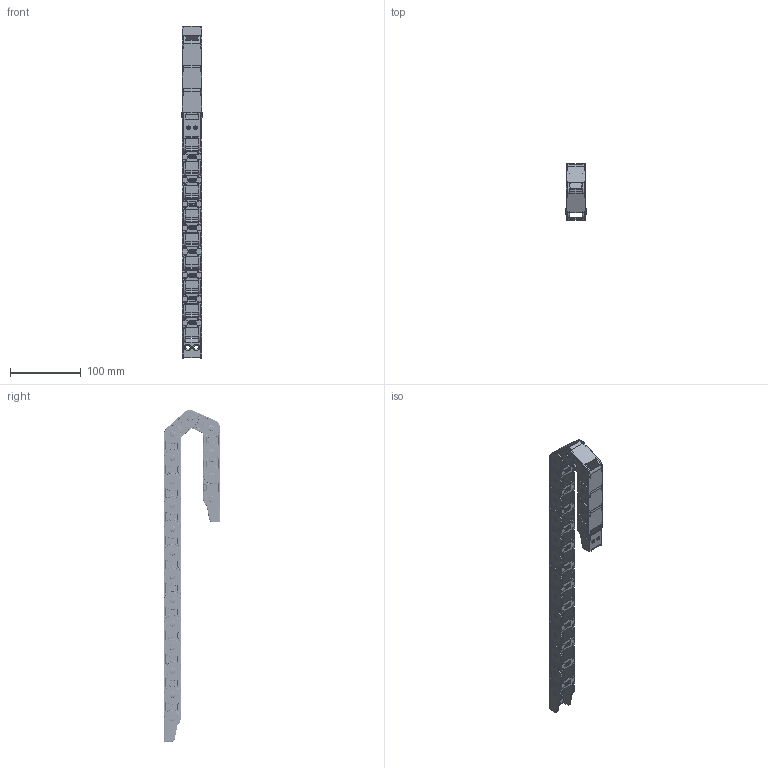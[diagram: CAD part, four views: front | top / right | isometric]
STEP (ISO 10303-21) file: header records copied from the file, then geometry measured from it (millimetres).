
FILE_DESCRIPTION (( 'STEP AP203' ), '1' );
FILE_NAME ('5-J18BF.1.18NR28-3D郪璃芞.STEP', '2017-03-15T02:28:34', ( 'china' ), ( 'china' ), 'SwSTEP 2.0', 'SolidWorks 2016', '' );
FILE_SCHEMA (( 'CONFIG_CONTROL_DESIGN' ));
Length unit declared in the file: millimetre
Products named in the file (6): J18BF.1.18XJT-N-FW; 18BFX18-FW翋极芞; J18BF.1.18XJT-W-FW; A-J18BF-1-18-FW-楷俋結え; 5-J18BF.1.18NR28-3D郪璃芞; 18X18BF-FW-1
Assembly tree (21 placements, depth 3):
  5-J18BF.1.18NR28-3D郪璃芞
    18X18BF-FW-1  x17
      18BFX18-FW翋极芞
      A-J18BF-1-18-FW-楷俋結え
    J18BF.1.18XJT-N-FW
    J18BF.1.18XJT-W-FW
Bounding box: 28.85 x 79 x 469.17 mm (x, y, z)
Volume: 150214.5 mm3; surface area: 154145.9 mm2
Topology: 36 solids, 36 shells, 6083 faces, 15554 edges, 9860 vertices
Faces by surface type: plane 2649, bspline 1570, cylinder 1330, cone 246, torus 216, sphere 72
Entity records: 19835 total; most frequent: CARTESIAN_POINT 7564, ORIENTED_EDGE 2444, DIRECTION 2172, EDGE_CURVE 1222, VERTEX_POINT 772, AXIS2_PLACEMENT_3D 744, VECTOR 684, LINE 684
